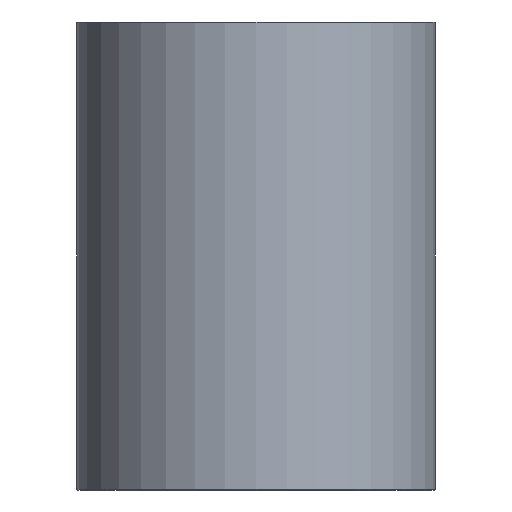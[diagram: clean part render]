
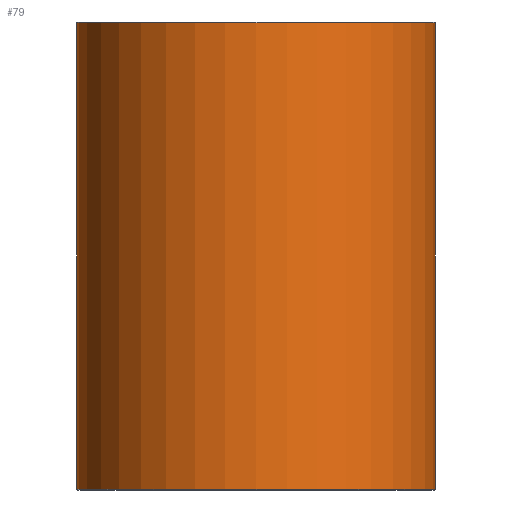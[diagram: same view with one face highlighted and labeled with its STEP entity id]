
A CAD part, front view. The second image highlights one B-rep face of the part: STEP entity #79.
In plain terms, the highlighted cylindrical face has radius 46 mm (diameter 92 mm), a full revolution.
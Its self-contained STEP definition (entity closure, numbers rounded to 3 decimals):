
#79=ADVANCED_FACE('',(#96,#97),#98,.T.);
#96=FACE_OUTER_BOUND('',#120,.T.);
#97=FACE_OUTER_BOUND('',#121,.T.);
#98=CYLINDRICAL_SURFACE('',#122,46.0);
#120=EDGE_LOOP('',(#152));
#121=EDGE_LOOP('',(#153));
#122=AXIS2_PLACEMENT_3D('',#154,#155,#156);
#152=ORIENTED_EDGE('',*,*,#178,.T.);
#153=ORIENTED_EDGE('',*,*,#177,.T.);
#154=CARTESIAN_POINT('',(0.0,0.0,120.0));
#155=DIRECTION('',(0.0,0.0,-1.0));
#156=DIRECTION('',(-1.0,0.0,0.0));
#177=EDGE_CURVE('',#190,#190,#191,.T.);
#178=EDGE_CURVE('',#192,#192,#193,.F.);
#190=VERTEX_POINT('',#206);
#191=CIRCLE('',#207,46.0);
#192=VERTEX_POINT('',#208);
#193=CIRCLE('',#209,46.0);
#206=CARTESIAN_POINT('',(46.0,0.0,0.2));
#207=AXIS2_PLACEMENT_3D('',#227,#228,#229);
#208=CARTESIAN_POINT('',(46.0,0.,119.8));
#209=AXIS2_PLACEMENT_3D('',#230,#231,#232);
#227=CARTESIAN_POINT('',(0.0,0.0,0.2));
#228=DIRECTION('',(0.0,0.0,1.0));
#229=DIRECTION('',(1.0,0.0,0.0));
#230=CARTESIAN_POINT('',(0.0,0.0,119.8));
#231=DIRECTION('',(0.0,0.0,1.0));
#232=DIRECTION('',(1.0,0.0,0.0));
